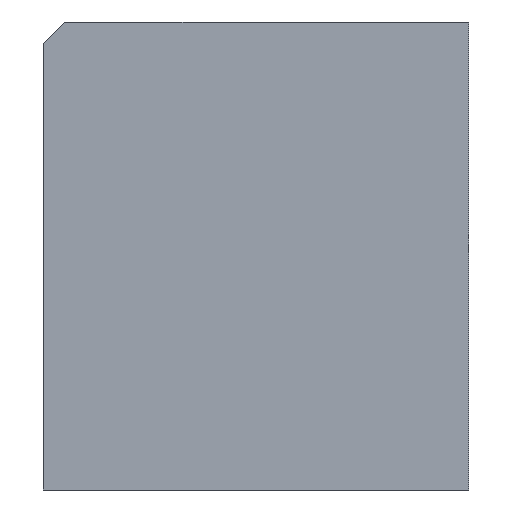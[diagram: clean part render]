
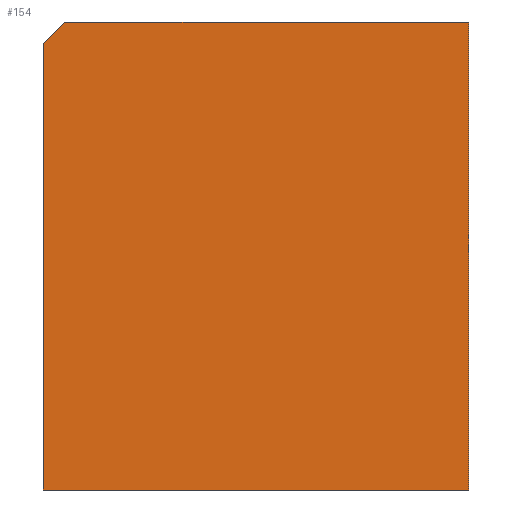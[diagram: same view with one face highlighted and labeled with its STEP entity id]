
A CAD part, left-side view. The second image highlights one B-rep face of the part: STEP entity #154.
In plain terms, the highlighted planar face has unit normal (-1, 0, 0).
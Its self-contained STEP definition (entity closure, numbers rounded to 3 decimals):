
#50=LINE('',#1006,#73);
#54=LINE('',#1014,#77);
#55=LINE('',#1016,#78);
#56=LINE('',#1018,#79);
#57=LINE('',#1020,#80);
#73=VECTOR('',#696,1.);
#77=VECTOR('',#702,1.);
#78=VECTOR('',#705,1.);
#79=VECTOR('',#706,1.);
#80=VECTOR('',#707,1.);
#95=PLANE('',#573);
#154=ADVANCED_FACE('',(#190),#95,.F.);
#190=FACE_OUTER_BOUND('',#231,.T.);
#231=EDGE_LOOP('',(#355,#356,#357,#358,#359));
#355=ORIENTED_EDGE('',*,*,#477,.F.);
#356=ORIENTED_EDGE('',*,*,#481,.T.);
#357=ORIENTED_EDGE('',*,*,#482,.T.);
#358=ORIENTED_EDGE('',*,*,#483,.T.);
#359=ORIENTED_EDGE('',*,*,#484,.F.);
#423=VERTEX_POINT('',#1005);
#424=VERTEX_POINT('',#1007);
#426=VERTEX_POINT('',#1013);
#427=VERTEX_POINT('',#1017);
#428=VERTEX_POINT('',#1019);
#477=EDGE_CURVE('',#423,#424,#50,.T.);
#481=EDGE_CURVE('',#423,#426,#54,.T.);
#482=EDGE_CURVE('',#426,#427,#55,.T.);
#483=EDGE_CURVE('',#427,#428,#56,.T.);
#484=EDGE_CURVE('',#424,#428,#57,.T.);
#573=AXIS2_PLACEMENT_3D('',#1021,#708,#709);
#696=DIRECTION('',(0.,-1.,0.));
#702=DIRECTION('',(0.,0.707,-0.707));
#705=DIRECTION('',(0.,0.,-1.));
#706=DIRECTION('',(0.,-1.,0.));
#707=DIRECTION('',(0.,0.,-1.));
#708=DIRECTION('',(1.,0.,0.));
#709=DIRECTION('',(0.,1.,0.));
#1005=CARTESIAN_POINT('',(-25.,11.,14.));
#1006=CARTESIAN_POINT('',(-25.,12.,14.));
#1007=CARTESIAN_POINT('',(-25.,-7.9,14.));
#1013=CARTESIAN_POINT('',(-25.,12.,13.));
#1014=CARTESIAN_POINT('',(-25.,11.,14.));
#1016=CARTESIAN_POINT('',(-25.,12.,12.));
#1017=CARTESIAN_POINT('',(-25.,12.,-7.9));
#1018=CARTESIAN_POINT('',(-25.,12.,-7.9));
#1019=CARTESIAN_POINT('',(-25.,-7.9,-7.9));
#1020=CARTESIAN_POINT('',(-25.,-7.9,12.));
#1021=CARTESIAN_POINT('',(-25.,12.,12.));
